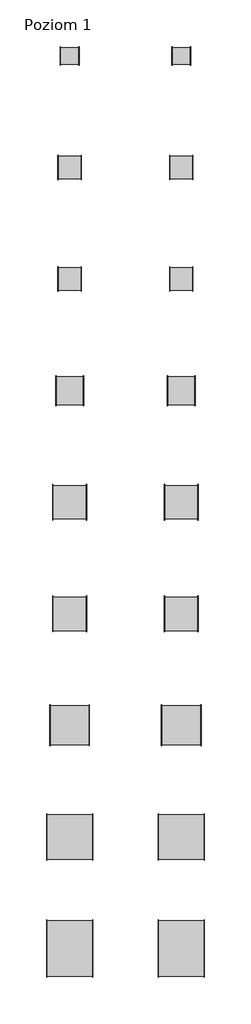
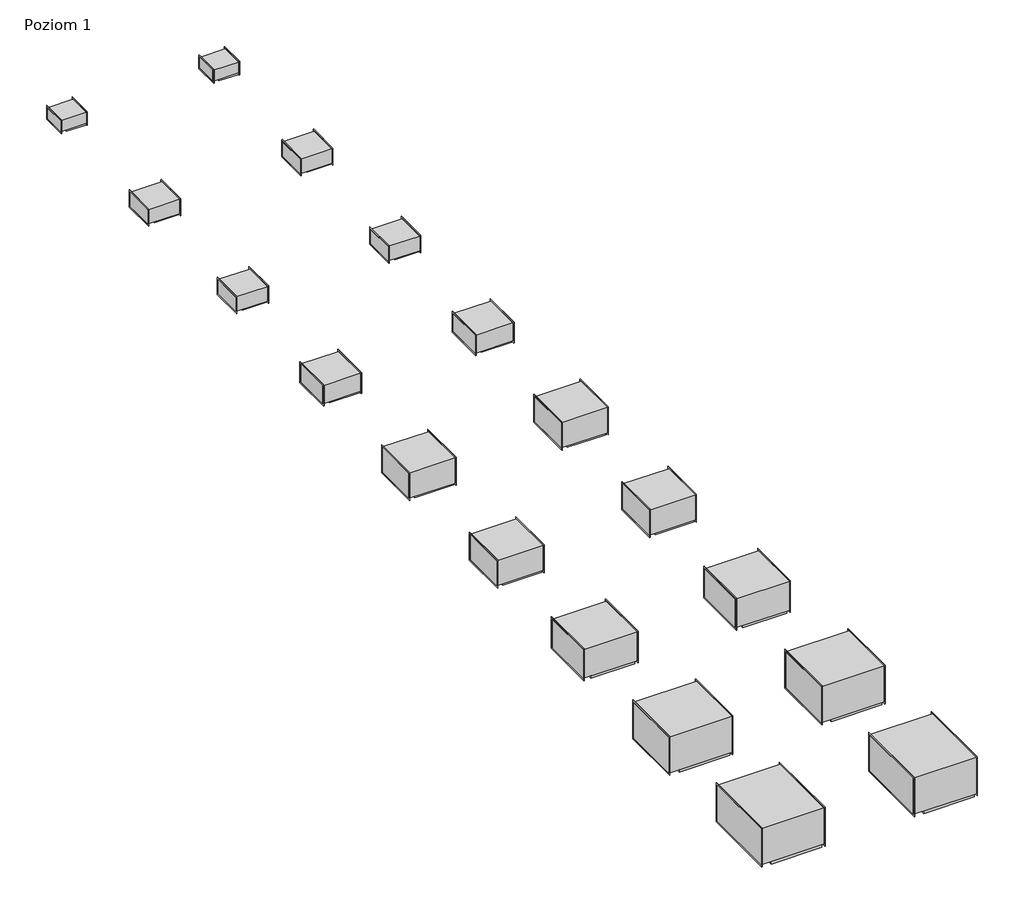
# One storey: 18 unitary equipment elements.
"""IFC4 building model written with IfcOpenShell, lengths in millimetres."""

from ifc_helpers import new_model, si_unit, origin, place, context, project, spatial, transform, mapped, element, save
from components import unitary_equipment_97ff8802, unitary_equipment_5d39ef2c, unitary_equipment_8736fc89, unitary_equipment_d235b29f, unitary_equipment_bec6df93, unitary_equipment_9a502e59, unitary_equipment_f620d910, unitary_equipment_f13bc2cc, unitary_equipment_030_15_700ec_126bc74f

model = new_model("IFC4")

# Units and contexts
model_context = context("Model", 3, world=origin())
ifc_project = project(units=[si_unit("LENGTHUNIT", "METRE", prefix="MILLI")], contexts=[model_context])

# Site, building, storey
site = spatial("IfcSite", under=ifc_project)
building = spatial("IfcBuilding", under=site)
storey = spatial("IfcBuildingStorey", under=building, Name="Poziom 1", Elevation=0.0)

# Unitary equipment
placement = place(None, origin())
unitary_equipment_shape = unitary_equipment_97ff8802(model_context)
element("IfcUnitaryEquipment", 1, ObjectType="VE-Wentylator-ParaForma-Harmann-DRB_EC-Nawiewny : 040/20/1000EC", at=placement, inside=storey, context=model_context, shape_type="MappedRepresentation", body=[
    mapped(unitary_equipment_shape, transform((6582.5, 7000.0, 0.0), x_axis=(1.0, 0.0, 0.0), y_axis=(0.0, 1.0, 0.0), z_axis=(0.0, 0.0, 1.0))),
])
unitary_equipment_2_shape = unitary_equipment_5d39ef2c(model_context)
element("IfcUnitaryEquipment", 2, ObjectType="VE-Wentylator-ParaForma-Harmann-DRB_EC-Nawiewny : 040/20/1300EC", at=placement, inside=storey, context=model_context, shape_type="MappedRepresentation", body=[
    mapped(unitary_equipment_2_shape, transform((6582.5, 5000.0, 0.0), x_axis=(1.0, 0.0, 0.0), y_axis=(0.0, 1.0, 0.0), z_axis=(0.0, 0.0, 1.0))),
])
unitary_equipment_3_shape = unitary_equipment_8736fc89(model_context)
element("IfcUnitaryEquipment", 3, ObjectType="VE-Wentylator-ParaForma-Harmann-DRB_EC-Nawiewny : 050/25/2000EC", at=placement, inside=storey, context=model_context, shape_type="MappedRepresentation", body=[
    mapped(unitary_equipment_3_shape, transform((6582.5, 3000.0, 0.0), x_axis=(1.0, 0.0, 0.0), y_axis=(0.0, 1.0, 0.0), z_axis=(0.0, 0.0, 1.0))),
])
unitary_equipment_4_shape = unitary_equipment_d235b29f(model_context)
element("IfcUnitaryEquipment", 4, ObjectType="VE-Wentylator-ParaForma-Harmann-DRB_EC-Nawiewny : 060/35/3050EC", at=placement, inside=storey, context=model_context, shape_type="MappedRepresentation", body=[
    mapped(unitary_equipment_4_shape, transform((6582.5, 1000.0, 0.0), x_axis=(1.0, 0.0, 0.0), y_axis=(0.0, 1.0, 0.0), z_axis=(0.0, 0.0, 1.0))),
])
unitary_equipment_5_shape = unitary_equipment_bec6df93(model_context)
element("IfcUnitaryEquipment", 5, ObjectType="VE-Wentylator-ParaForma-Harmann-DRB_EC-Nawiewny : 060/35/4600EC", at=placement, inside=storey, context=model_context, shape_type="MappedRepresentation", body=[
    mapped(unitary_equipment_5_shape, transform((6582.5, -1000.0, 0.0), x_axis=(1.0, 0.0, 0.0), y_axis=(0.0, 1.0, 0.0), z_axis=(0.0, 0.0, 1.0))),
])
unitary_equipment_6_shape = unitary_equipment_9a502e59(model_context)
element("IfcUnitaryEquipment", 6, ObjectType="VE-Wentylator-ParaForma-Harmann-DRB_EC-Nawiewny : 070/40/5100EC", at=placement, inside=storey, context=model_context, shape_type="MappedRepresentation", body=[
    mapped(unitary_equipment_6_shape, transform((6582.5, -3000.0, 0.0), x_axis=(1.0, 0.0, 0.0), y_axis=(0.0, 1.0, 0.0), z_axis=(0.0, 0.0, 1.0))),
])
unitary_equipment_7_shape = unitary_equipment_f620d910(model_context)
element("IfcUnitaryEquipment", 7, ObjectType="VE-Wentylator-ParaForma-Harmann-DRB_EC-Nawiewny : 080/50/9500TEC", at=placement, inside=storey, context=model_context, shape_type="MappedRepresentation", body=[
    mapped(unitary_equipment_7_shape, transform((6582.5, -5000.0, 0.0), x_axis=(1.0, 0.0, 0.0), y_axis=(0.0, 1.0, 0.0), z_axis=(0.0, 0.0, 1.0))),
])
unitary_equipment_8_shape = unitary_equipment_f13bc2cc(model_context)
element("IfcUnitaryEquipment", 8, ObjectType="VE-Wentylator-ParaForma-Harmann-DRB_EC-Nawiewny : 100/50/12400TEC", at=placement, inside=storey, context=model_context, shape_type="MappedRepresentation", body=[
    mapped(unitary_equipment_8_shape, transform((6582.5, -7000.0, 0.0), x_axis=(1.0, 0.0, 0.0), y_axis=(0.0, 1.0, 0.0), z_axis=(0.0, 0.0, 1.0))),
])
element("IfcUnitaryEquipment", 9, ObjectType="VE-Wentylator-ParaForma-Harmann-DRB_EC-Wywiewny : 040/20/1000EC", at=placement, inside=storey, context=model_context, shape_type="MappedRepresentation", body=[
    mapped(unitary_equipment_shape, transform((4582.5, 7000.0, 0.0), x_axis=(1.0, 0.0, 0.0), y_axis=(0.0, 1.0, 0.0), z_axis=(0.0, 0.0, 1.0))),
])
element("IfcUnitaryEquipment", 10, ObjectType="VE-Wentylator-ParaForma-Harmann-DRB_EC-Wywiewny : 040/20/1300EC", at=placement, inside=storey, context=model_context, shape_type="MappedRepresentation", body=[
    mapped(unitary_equipment_2_shape, transform((4582.5, 5000.0, 0.0), x_axis=(1.0, 0.0, 0.0), y_axis=(0.0, 1.0, 0.0), z_axis=(0.0, 0.0, 1.0))),
])
element("IfcUnitaryEquipment", 11, ObjectType="VE-Wentylator-ParaForma-Harmann-DRB_EC-Wywiewny : 050/25/2000EC", at=placement, inside=storey, context=model_context, shape_type="MappedRepresentation", body=[
    mapped(unitary_equipment_3_shape, transform((4582.5, 3000.0, 0.0), x_axis=(1.0, 0.0, 0.0), y_axis=(0.0, 1.0, 0.0), z_axis=(0.0, 0.0, 1.0))),
])
element("IfcUnitaryEquipment", 12, ObjectType="VE-Wentylator-ParaForma-Harmann-DRB_EC-Wywiewny : 060/35/3050EC", at=placement, inside=storey, context=model_context, shape_type="MappedRepresentation", body=[
    mapped(unitary_equipment_4_shape, transform((4582.5, 1000.0, 0.0), x_axis=(1.0, 0.0, 0.0), y_axis=(0.0, 1.0, 0.0), z_axis=(0.0, 0.0, 1.0))),
])
element("IfcUnitaryEquipment", 13, ObjectType="VE-Wentylator-ParaForma-Harmann-DRB_EC-Wywiewny : 060/35/4600EC", at=placement, inside=storey, context=model_context, shape_type="MappedRepresentation", body=[
    mapped(unitary_equipment_5_shape, transform((4582.5, -1000.0, 0.0), x_axis=(1.0, 0.0, 0.0), y_axis=(0.0, 1.0, 0.0), z_axis=(0.0, 0.0, 1.0))),
])
element("IfcUnitaryEquipment", 14, ObjectType="VE-Wentylator-ParaForma-Harmann-DRB_EC-Wywiewny : 070/40/5100EC", at=placement, inside=storey, context=model_context, shape_type="MappedRepresentation", body=[
    mapped(unitary_equipment_6_shape, transform((4582.5, -3000.0, 0.0), x_axis=(1.0, 0.0, 0.0), y_axis=(0.0, 1.0, 0.0), z_axis=(0.0, 0.0, 1.0))),
])
element("IfcUnitaryEquipment", 15, ObjectType="VE-Wentylator-ParaForma-Harmann-DRB_EC-Wywiewny : 080/50/9500TEC", at=placement, inside=storey, context=model_context, shape_type="MappedRepresentation", body=[
    mapped(unitary_equipment_7_shape, transform((4582.5, -5000.0, 0.0), x_axis=(1.0, 0.0, 0.0), y_axis=(0.0, 1.0, 0.0), z_axis=(0.0, 0.0, 1.0))),
])
element("IfcUnitaryEquipment", 16, ObjectType="VE-Wentylator-ParaForma-Harmann-DRB_EC-Wywiewny : 100/50/12400TEC", at=placement, inside=storey, context=model_context, shape_type="MappedRepresentation", body=[
    mapped(unitary_equipment_8_shape, transform((4582.5, -7000.0, 0.0), x_axis=(1.0, 0.0, 0.0), y_axis=(0.0, 1.0, 0.0), z_axis=(0.0, 0.0, 1.0))),
])
unitary_equipment_030_15_700ec_shape = unitary_equipment_030_15_700ec_126bc74f(model_context)
element("IfcUnitaryEquipment", 17, ObjectType="VE-Wentylator-ParaForma-Harmann-DRB_EC-Nawiewny : 030/15/700EC", at=placement, inside=storey, context=model_context, shape_type="MappedRepresentation", body=[
    mapped(unitary_equipment_030_15_700ec_shape, transform((6582.5, 9000.0, 0.0), x_axis=(1.0, 0.0, 0.0), y_axis=(0.0, 1.0, 0.0), z_axis=(0.0, 0.0, 1.0))),
])
element("IfcUnitaryEquipment", 18, ObjectType="VE-Wentylator-ParaForma-Harmann-DRB_EC-Wywiewny : 030/15/700EC", at=placement, inside=storey, context=model_context, shape_type="MappedRepresentation", body=[
    mapped(unitary_equipment_030_15_700ec_shape, transform((4582.5, 9000.0, 0.0), x_axis=(1.0, 0.0, 0.0), y_axis=(0.0, 1.0, 0.0), z_axis=(0.0, 0.0, 1.0))),
])

save(model, "model.ifc")
